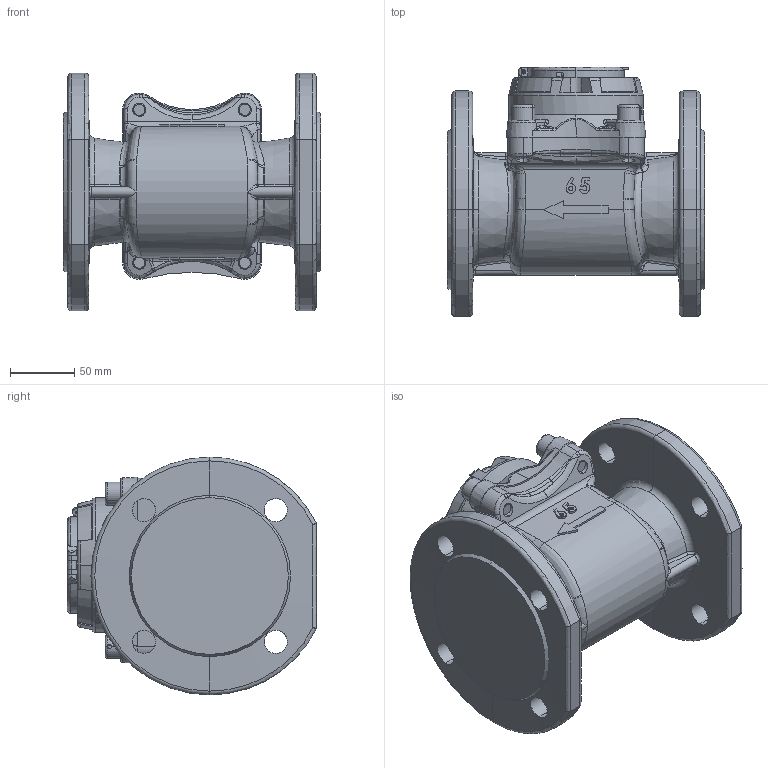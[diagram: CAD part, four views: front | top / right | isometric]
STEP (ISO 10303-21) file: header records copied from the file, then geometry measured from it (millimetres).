
FILE_DESCRIPTION (( 'STEP AP214' ), '1' );
FILE_NAME ('MWN65 IP65 NKO.STEP', '2025-07-09T10:44:18', ( '' ), ( '' ), 'SwSTEP 2.0', 'SolidWorks 2019', '' );
FILE_SCHEMA (( 'AUTOMOTIVE_DESIGN' ));
Length unit declared in the file: millimetre
Products named in the file (1): MWN65 IP65 NKO
Bounding box: 200 x 193.8 x 185 mm (x, y, z)
Volume: 2680834.9 mm3; surface area: 236765.2 mm2
Topology: 3 solids, 15 shells, 1034 faces, 2636 edges, 1635 vertices
Faces by surface type: plane 376, bspline 266, cylinder 199, torus 92, cone 89, sphere 12
Entity records: 55617 total; most frequent: CARTESIAN_POINT 21310, ORIENTED_EDGE 5194, DIRECTION 4206, EDGE_CURVE 2597, VERTEX_POINT 1635, AXIS2_PLACEMENT_3D 1520, LINE 1166, VECTOR 1166
